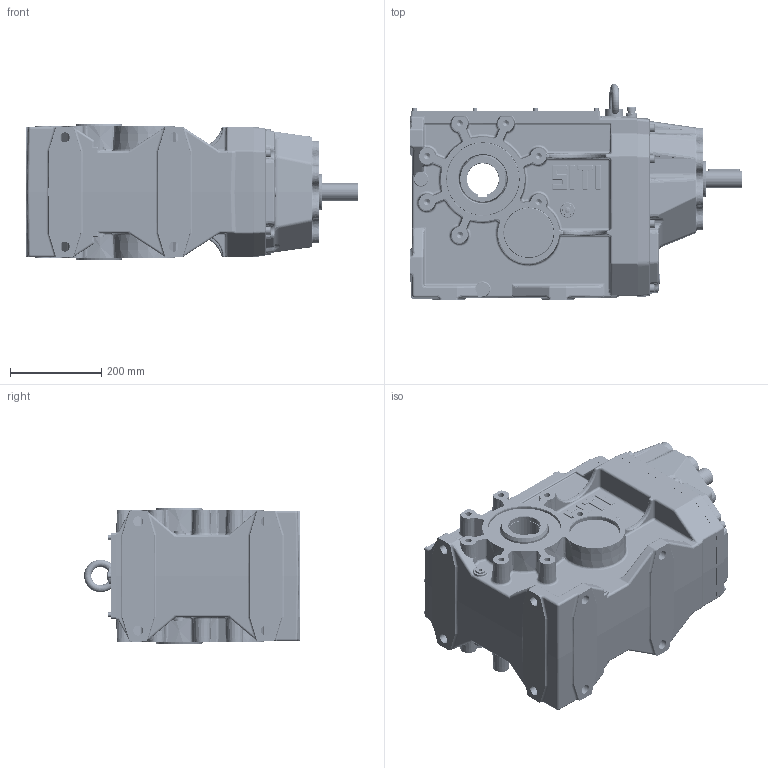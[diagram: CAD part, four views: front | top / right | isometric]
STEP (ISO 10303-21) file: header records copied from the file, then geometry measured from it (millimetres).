
FILE_DESCRIPTION((''),'2;1');
FILE_NAME('C:\Users\m.piscopiello.SITIRIDUTTORI\Desktop\3D x SITO\BH 140\BH_140 C.stp','2013-05-09T15:52:49',('m.piscopiello'),(''),'Autodesk Inventor 2012','Autodesk Inventor 2012','');
FILE_SCHEMA(('CONFIG_CONTROL_DESIGN'));
Length unit declared in the file: millimetre
Products named in the file (1): BH_140 C
Bounding box: 729 x 473.99 x 300 mm (x, y, z)
Volume: 17659057.5 mm3; surface area: 2675131.9 mm2
Topology: 47 solids, 49 shells, 3794 faces, 9114 edges, 5381 vertices
Faces by surface type: cylinder 1058, plane 983, bspline 897, torus 415, cone 302, sphere 139
Full cylindrical faces by diameter (mm): 3 x2, 4.917 x10, 6 x20, 6.4 x10, 6.75 x1, 7 x10, 8.4 x1, 10 x10, 10.106 x10, 12 x22, 12.5 x12, 13 x8, 13.835 x14, 14.95 x2, 16 x1, 16.6 x6, 17.294 x3, 18 x8, 19.5 x1, 20.5 x8, 22 x8, 25 x1, 26 x1, 30 x3, 38 x1, 40 x1, 71.938 x1, 72 x1, 74.975 x2, 75.35 x1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
Entity records: 149200 total; most frequent: CARTESIAN_POINT 64886, ORIENTED_EDGE 16708, DIRECTION 15961, EDGE_CURVE 8354, AXIS2_PLACEMENT_3D 6739, VERTEX_POINT 5182, EDGE_LOOP 4429, STYLED_ITEM 3840
